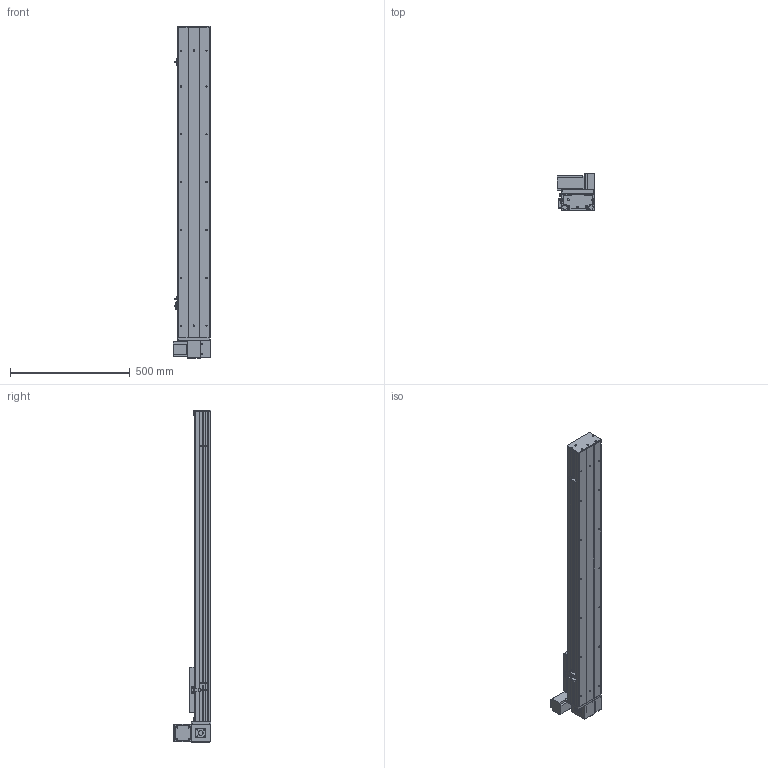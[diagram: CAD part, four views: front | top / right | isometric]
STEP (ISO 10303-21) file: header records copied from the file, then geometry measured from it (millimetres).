
FILE_DESCRIPTION (( 'STEP AP203' ), '1' );
FILE_NAME ('Y135CB-D90-S1000-UL-P400W.STEP', '2020-02-18T07:20:26', ( '微软用户' ), ( '微软中国' ), 'SwSTEP 2.0', 'SolidWorks 2017', '' );
FILE_SCHEMA (( 'CONFIG_CONTROL_DESIGN' ));
Length unit declared in the file: millimetre
Products named in the file (18): Y135CB-D90-S1000-UL-P400W; 135CB--詩湍-CE; 135CB---遴掛极.-; Y100-135俋离換覜ん--; 35CB---喘謫眊楊擘啣; Y135C-陔俋离換覜結え-; 0B-埴倛裔啣; 5C--俋欶; 0B-源倛裔啣; C-雄赽釱--; 0B-萇儂楊擘啣; Y10B-耜蚾蟀諉啣----; san松下电机400不带刹车----; 00B-俋欶BM--; 5CB --掛极耜裔啣-; Y10B--々湍喘謫眊--666; C-詩湍揤踡え-陔; Y135CB-耜裔
Assembly tree (21 placements, depth 2):
  Y135CB-D90-S1000-UL-P400W
    Y135CB-耜裔
    135CB---遴掛极.-
    35CB---喘謫眊楊擘啣
    0B-埴倛裔啣
    0B-源倛裔啣
    0B-萇儂楊擘啣
    san松下电机400不带刹车----
    5CB --掛极耜裔啣-  x2
    C-詩湍揤踡え-陔  x2
    135CB--詩湍-CE
    Y100-135俋离換覜ん--  x3
    Y135C-陔俋离換覜結え-
    5C--俋欶
    C-雄赽釱--
    Y10B-耜蚾蟀諉啣----
    00B-俋欶BM--
    Y10B--々湍喘謫眊--666
Bounding box: 157 x 158.7 x 1388 mm (x, y, z)
Volume: 4386452.7 mm3; surface area: 1716220 mm2
Topology: 21 solids, 21 shells, 945 faces, 2527 edges, 1674 vertices
Faces by surface type: cylinder 473, plane 456, cone 16
Entity records: 29349 total; most frequent: DIRECTION 4875, CARTESIAN_POINT 4812, ORIENTED_EDGE 4530, EDGE_CURVE 2265, AXIS2_PLACEMENT_3D 1777, VERTEX_POINT 1502, VECTOR 1321, LINE 1321
